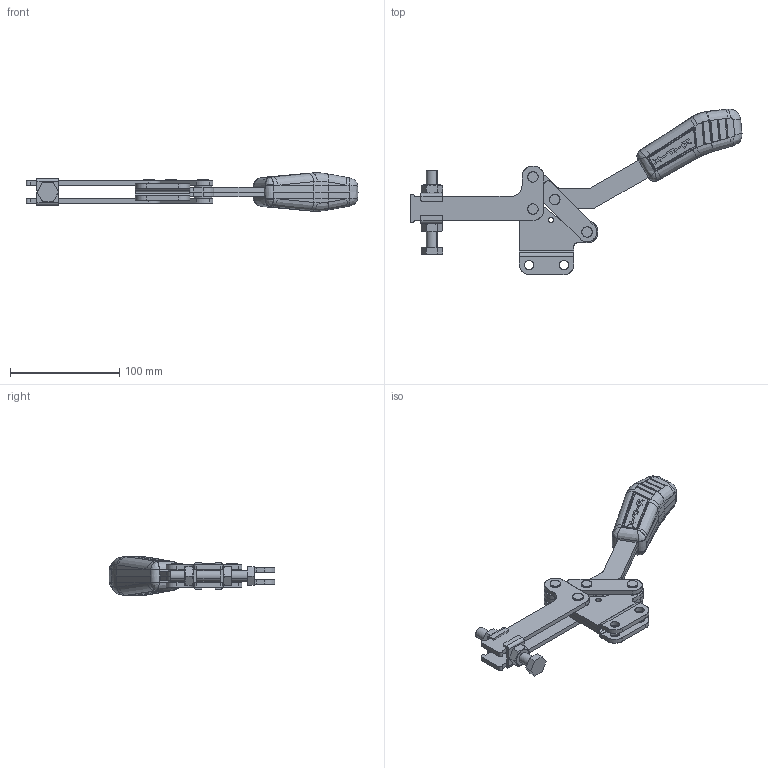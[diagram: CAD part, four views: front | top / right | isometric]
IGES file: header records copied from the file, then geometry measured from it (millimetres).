
Start section: SolidWorks IGES file using analytic representation for surfaces
Global section: file name: C:\Projetos\Grampos\KF-541\KF-541 RL\KF-541 RL.IGS; native system: SolidWorks 2013; preprocessor: SolidWorks 2013; author: Ricardo; date: 140818.143051; units: millimetre
Bounding box: 303.8 x 151.86 x 35.04 mm (x, y, z)
Surface area: 86098 mm2 (no closed solid volume)
Topology: 0 solids, 0 shells, 826 faces, 9584 edges, 9553 vertices
Faces by surface type: bspline 448, revolution 378
